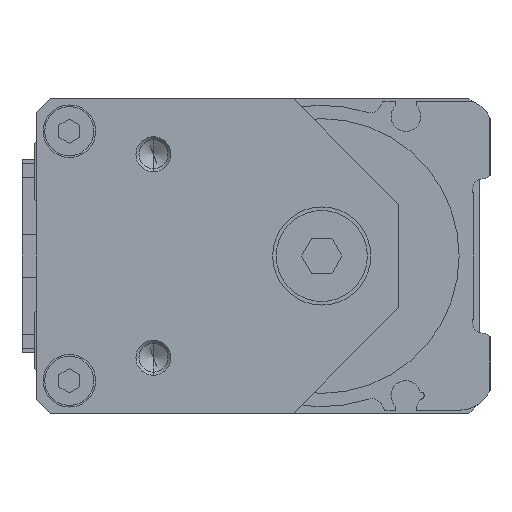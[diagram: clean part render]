
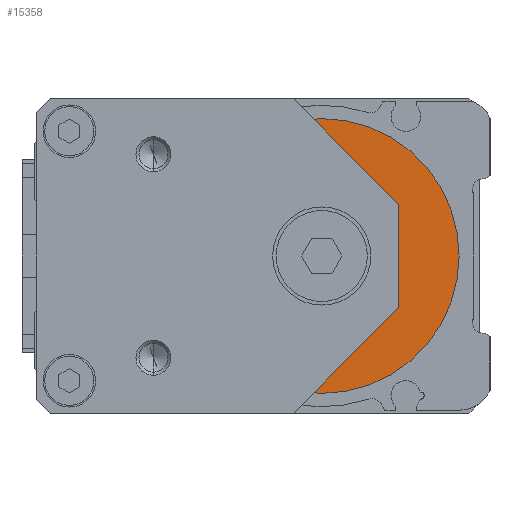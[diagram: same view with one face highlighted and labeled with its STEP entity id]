
A CAD part, left-side view. The second image highlights one B-rep face of the part: STEP entity #15358.
In plain terms, the highlighted planar face has unit normal (-1, 0, 0) as drawn and (0, 0, 1) by its records, which use the part's own axes.
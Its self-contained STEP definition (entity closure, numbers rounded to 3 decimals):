
#426 = CARTESIAN_POINT ( 'NONE',  ( 0., 0., -1. ) ) ;
#581 = ORIENTED_EDGE ( 'NONE', *, *, #37137, .F. ) ;
#2476 = DIRECTION ( 'NONE',  ( 0., 0., 1. ) ) ;
#2768 = VERTEX_POINT ( 'NONE', #5290 ) ;
#4745 = VERTEX_POINT ( 'NONE', #10726 ) ;
#5290 = CARTESIAN_POINT ( 'NONE',  ( -19.6, 0., -1. ) ) ;
#5477 = DIRECTION ( 'NONE',  ( 1., 0., 0. ) ) ;
#5761 = AXIS2_PLACEMENT_3D ( 'NONE', #38734, #11570, #8970 ) ;
#7025 = EDGE_CURVE ( 'NONE', #10272, #2768, #32362, .T. ) ;
#8970 = DIRECTION ( 'NONE',  ( 1., 0., 0. ) ) ;
#8995 = EDGE_CURVE ( 'NONE', #2768, #10272, #17313, .T. ) ;
#9745 = AXIS2_PLACEMENT_3D ( 'NONE', #41730, #2476, #42181 ) ;
#10272 = VERTEX_POINT ( 'NONE', #18271 ) ;
#10726 = CARTESIAN_POINT ( 'NONE',  ( -10., 0., -1. ) ) ;
#11038 = CIRCLE ( 'NONE', #11757, 10. ) ;
#11570 = DIRECTION ( 'NONE',  ( 0., 0., 1. ) ) ;
#11757 = AXIS2_PLACEMENT_3D ( 'NONE', #12438, #28788, #5477 ) ;
#12438 = CARTESIAN_POINT ( 'NONE',  ( 0., 0., -1. ) ) ;
#13792 = DIRECTION ( 'NONE',  ( 1., 0., 0. ) ) ;
#15358 = ADVANCED_FACE ( 'NONE', ( #28603, #25582 ), #15479, .T. ) ;
#15479 = PLANE ( 'NONE',  #5761 ) ;
#16907 = ORIENTED_EDGE ( 'NONE', *, *, #7025, .T. ) ;
#17313 = CIRCLE ( 'NONE', #9745, 19.6 ) ;
#18271 = CARTESIAN_POINT ( 'NONE',  ( 19.6, 0., -1. ) ) ;
#18518 = EDGE_LOOP ( 'NONE', ( #16907, #18602 ) ) ;
#18602 = ORIENTED_EDGE ( 'NONE', *, *, #8995, .T. ) ;
#21665 = DIRECTION ( 'NONE',  ( 1., 0., 0. ) ) ;
#21689 = VERTEX_POINT ( 'NONE', #42134 ) ;
#25582 = FACE_OUTER_BOUND ( 'NONE', #18518, .T. ) ;
#26730 = DIRECTION ( 'NONE',  ( 0., 0., 1. ) ) ;
#27560 = AXIS2_PLACEMENT_3D ( 'NONE', #41231, #31130, #21665 ) ;
#28603 = FACE_BOUND ( 'NONE', #35738, .T. ) ;
#28788 = DIRECTION ( 'NONE',  ( 0., 0., 1. ) ) ;
#28909 = EDGE_CURVE ( 'NONE', #21689, #4745, #35034, .T. ) ;
#31130 = DIRECTION ( 'NONE',  ( 0., 0., 1. ) ) ;
#32362 = CIRCLE ( 'NONE', #27560, 19.6 ) ;
#35034 = CIRCLE ( 'NONE', #37067, 10. ) ;
#35738 = EDGE_LOOP ( 'NONE', ( #581, #42437 ) ) ;
#37067 = AXIS2_PLACEMENT_3D ( 'NONE', #426, #26730, #13792 ) ;
#37137 = EDGE_CURVE ( 'NONE', #4745, #21689, #11038, .T. ) ;
#38734 = CARTESIAN_POINT ( 'NONE',  ( 0., 0., -1. ) ) ;
#41231 = CARTESIAN_POINT ( 'NONE',  ( 0., 0., -1. ) ) ;
#41730 = CARTESIAN_POINT ( 'NONE',  ( 0., 0., -1. ) ) ;
#42134 = CARTESIAN_POINT ( 'NONE',  ( 10., 0., -1. ) ) ;
#42181 = DIRECTION ( 'NONE',  ( 1., 0., 0. ) ) ;
#42437 = ORIENTED_EDGE ( 'NONE', *, *, #28909, .F. ) ;
